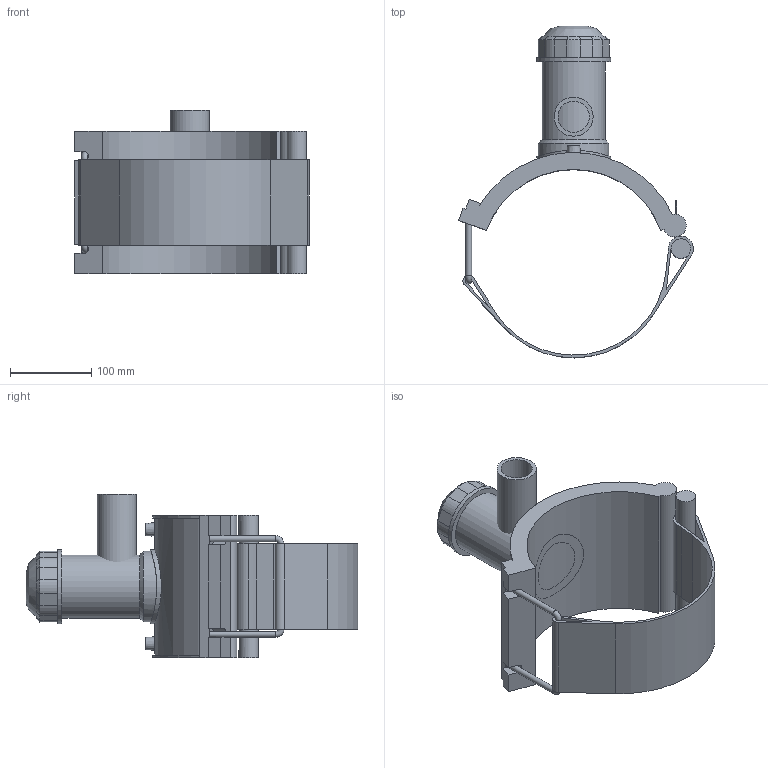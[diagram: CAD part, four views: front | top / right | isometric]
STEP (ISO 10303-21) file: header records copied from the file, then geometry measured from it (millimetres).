
FILE_DESCRIPTION(/* description */ ('PLASSON TAPPING SADDLE 8''''DIPS x 1 1/2''''IPS'),/* implementation_level */ '2;1');
FILE_NAME(/* name */ 'C:\Dropbox\KIMPROJECTS-Inventor 2019\99-16-3568-Processing Inch\ASTM ElectroFusion 2021\5963DBP_5963BUP\5963DBP3080015.ipt.stp',/* time_stamp */ '2021-08-30T09:58:47+03:00',/* author */ ('KIM'),/* organization */ (''),/* preprocessor_version */ 'ST-DEVELOPER v17.2',/* originating_system */ 'Autodesk Inventor 2019',/* authorisation */ '');
FILE_SCHEMA (('AUTOMOTIVE_DESIGN { 1 0 10303 214 3 1 1 }'));
Length unit declared in the file: inch
Products named in the file (1): 5963DBP3080015
Bounding box: 289.75 x 409.37 x 202.06 mm (x, y, z)
Volume: 2025208.5 mm3; surface area: 394293.4 mm2
Topology: 3 solids, 3 shells, 125 faces, 315 edges, 206 vertices
Faces by surface type: plane 69, cylinder 40, cone 13, torus 2, bspline 1
Full cylindrical faces by diameter (mm): 4 x2, 7.325 x2, 10 x2, 24.123 x1, 38.48 x1, 48.1 x1, 64.092 x1, 77.826 x1, 86.982 x1, 91.56 x2
Entity records: 4185 total; most frequent: CARTESIAN_POINT 1043, DIRECTION 661, ORIENTED_EDGE 632, EDGE_CURVE 316, AXIS2_PLACEMENT_3D 240, VERTEX_POINT 206, LINE 181, VECTOR 181
